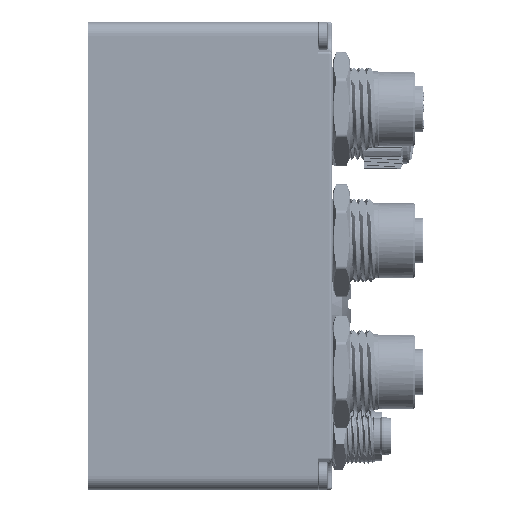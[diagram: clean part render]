
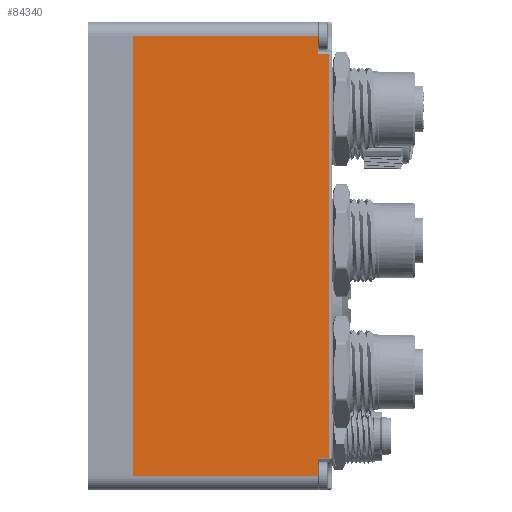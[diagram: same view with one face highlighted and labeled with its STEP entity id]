
A CAD part, left-side view. The second image highlights one B-rep face of the part: STEP entity #84340.
In plain terms, the highlighted planar face has unit normal (-1, 0, 0).
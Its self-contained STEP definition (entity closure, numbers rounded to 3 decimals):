
#7816=ORIENTED_EDGE('',*,*,#27579,.F.);
#7817=ORIENTED_EDGE('',*,*,#27580,.T.);
#7818=ORIENTED_EDGE('',*,*,#27581,.T.);
#7819=ORIENTED_EDGE('',*,*,#27582,.T.);
#7820=ORIENTED_EDGE('',*,*,#27583,.T.);
#7821=ORIENTED_EDGE('',*,*,#27403,.T.);
#7822=ORIENTED_EDGE('',*,*,#27584,.T.);
#7823=ORIENTED_EDGE('',*,*,#27585,.T.);
#27403=EDGE_CURVE('',#37342,#37343,#44033,.T.);
#27579=EDGE_CURVE('',#37512,#37513,#44139,.T.);
#27580=EDGE_CURVE('',#37512,#37514,#44140,.T.);
#27581=EDGE_CURVE('',#37514,#37515,#44141,.F.);
#27582=EDGE_CURVE('',#37515,#37516,#44142,.F.);
#27583=EDGE_CURVE('',#37516,#37342,#44143,.T.);
#27584=EDGE_CURVE('',#37343,#37517,#44144,.T.);
#27585=EDGE_CURVE('',#37517,#37513,#44145,.F.);
#37342=VERTEX_POINT('',#110996);
#37343=VERTEX_POINT('',#110997);
#37512=VERTEX_POINT('',#111356);
#37513=VERTEX_POINT('',#111357);
#37514=VERTEX_POINT('',#111359);
#37515=VERTEX_POINT('',#111361);
#37516=VERTEX_POINT('',#111363);
#37517=VERTEX_POINT('',#111366);
#44033=LINE('',#110995,#49307);
#44139=LINE('',#111355,#49413);
#44140=LINE('',#111358,#49414);
#44141=LINE('',#111360,#49415);
#44142=LINE('',#111362,#49416);
#44143=LINE('',#111364,#49417);
#44144=LINE('',#111365,#49418);
#44145=LINE('',#111367,#49419);
#49307=VECTOR('',#94541,1000.);
#49413=VECTOR('',#94815,1000.);
#49414=VECTOR('',#94816,1000.);
#49415=VECTOR('',#94817,1000.);
#49416=VECTOR('',#94818,1000.);
#49417=VECTOR('',#94819,1000.);
#49418=VECTOR('',#94820,1000.);
#49419=VECTOR('',#94821,1000.);
#54619=EDGE_LOOP('',(#7816,#7817,#7818,#7819,#7820,#7821,#7822,#7823));
#59049=FACE_BOUND('',#54619,.T.);
#63340=PLANE('',#88552);
#84340=ADVANCED_FACE('',(#59049),#63340,.F.);
#88552=AXIS2_PLACEMENT_3D('',#111354,#94813,#94814);
#94541=DIRECTION('',(0.,0.,-1.));
#94813=DIRECTION('',(1.,0.,0.));
#94814=DIRECTION('',(0.,1.,0.));
#94815=DIRECTION('',(0.,-1.,0.));
#94816=DIRECTION('',(0.,0.,1.));
#94817=DIRECTION('',(0.,-1.,0.));
#94818=DIRECTION('',(0.,0.,1.));
#94819=DIRECTION('',(0.,1.,0.));
#94820=DIRECTION('',(0.,-1.,0.));
#94821=DIRECTION('',(0.,0.,-1.));
#110995=CARTESIAN_POINT('',(-49.3,39.7,35.9));
#110996=CARTESIAN_POINT('',(-49.3,39.7,33.4));
#110997=CARTESIAN_POINT('',(-49.3,39.7,0.));
#111354=CARTESIAN_POINT('',(-49.3,42.2,35.9));
#111355=CARTESIAN_POINT('',(-49.3,-39.7,33.4));
#111356=CARTESIAN_POINT('',(-49.3,-36.4,33.4));
#111357=CARTESIAN_POINT('',(-49.3,-39.7,33.4));
#111358=CARTESIAN_POINT('',(-49.3,-36.4,35.9));
#111359=CARTESIAN_POINT('',(-49.3,-36.4,35.4));
#111360=CARTESIAN_POINT('',(-49.3,36.9,35.4));
#111361=CARTESIAN_POINT('',(-49.3,36.4,35.4));
#111362=CARTESIAN_POINT('',(-49.3,36.4,33.4));
#111363=CARTESIAN_POINT('',(-49.3,36.4,33.4));
#111364=CARTESIAN_POINT('',(-49.3,39.7,33.4));
#111365=CARTESIAN_POINT('',(-49.3,42.2,0.));
#111366=CARTESIAN_POINT('',(-49.3,-39.7,0.));
#111367=CARTESIAN_POINT('',(-49.3,-39.7,35.9));
